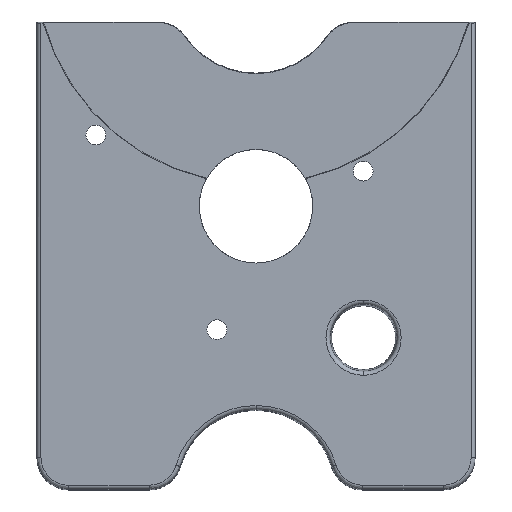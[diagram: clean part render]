
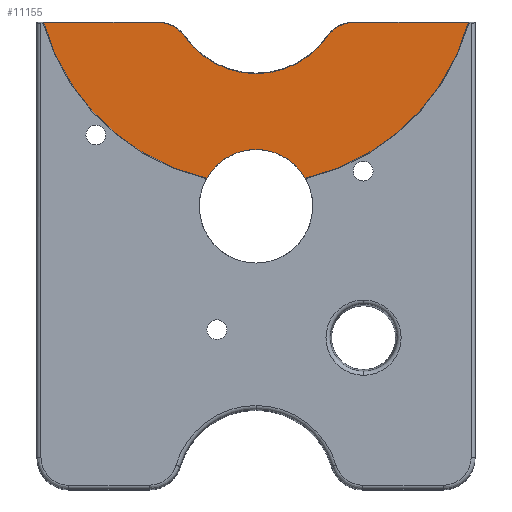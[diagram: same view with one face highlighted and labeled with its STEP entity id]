
A CAD part, front view. The second image highlights one B-rep face of the part: STEP entity #11155.
In plain terms, the highlighted planar face has unit normal (0, -1, 0).
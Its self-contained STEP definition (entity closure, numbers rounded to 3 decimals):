
#25 = CARTESIAN_POINT ( 'NONE',  ( -19.48, 5., 44.34 ) ) ;
#121 = CARTESIAN_POINT ( 'NONE',  ( -22.311, 5., 45.822 ) ) ;
#207 = CARTESIAN_POINT ( 'NONE',  ( -22., 5., 45.726 ) ) ;
#421 = CIRCLE ( 'NONE', #8009, 55.369 ) ;
#497 = CARTESIAN_POINT ( 'NONE',  ( 18.334, 5., 43.227 ) ) ;
#595 = CARTESIAN_POINT ( 'NONE',  ( 24.534, 5., 46.131 ) ) ;
#608 = CARTESIAN_POINT ( 'NONE',  ( -21.4, 5., 45.498 ) ) ;
#672 = CIRCLE ( 'NONE', #3583, 14.25 ) ;
#696 = ORIENTED_EDGE ( 'NONE', *, *, #10596, .F. ) ;
#800 = CARTESIAN_POINT ( 'NONE',  ( -53.335, 5., 46.131 ) ) ;
#877 = CARTESIAN_POINT ( 'NONE',  ( -21.108, 5., 45.367 ) ) ;
#933 = CIRCLE ( 'NONE', #9932, 21.869 ) ;
#943 = CARTESIAN_POINT ( 'NONE',  ( -20.542, 5., 45.071 ) ) ;
#992 = CARTESIAN_POINT ( 'NONE',  ( -20.268, 5., 44.905 ) ) ;
#1044 = CARTESIAN_POINT ( 'NONE',  ( -19.736, 5., 44.539 ) ) ;
#1072 = CARTESIAN_POINT ( 'NONE',  ( -18.76, 5., 43.704 ) ) ;
#1185 = LINE ( 'NONE', #12943, #5686 ) ;
#1255 = CARTESIAN_POINT ( 'NONE',  ( -17.965, 5., 42.694 ) ) ;
#1347 = B_SPLINE_CURVE_WITH_KNOTS ( 'NONE', 3,
 ( #3005, #3118, #1072, #25, #1044, #992, #943, #877, #608, #207, #121, #13158, #13077, #12798 ),
 .UNSPECIFIED., .F., .F.,
 ( 4, 2, 2, 2, 2, 2, 4 ),
 ( 0., 0.002, 0.003, 0.004, 0.005, 0.006, 0.008 ),
 .UNSPECIFIED. ) ;
#1671 = VERTEX_POINT ( 'NONE', #1255 ) ;
#1709 = DIRECTION ( 'NONE',  ( 0., 1., 0. ) ) ;
#2076 = CARTESIAN_POINT ( 'NONE',  ( 0., 5., 0. ) ) ;
#2336 = VERTEX_POINT ( 'NONE', #5917 ) ;
#2337 = EDGE_CURVE ( 'NONE', #1671, #11984, #933, .T. ) ;
#2465 = CIRCLE ( 'NONE', #8702, 14.25 ) ;
#2577 = CARTESIAN_POINT ( 'NONE',  ( 22.318, 5., 45.824 ) ) ;
#2954 = DIRECTION ( 'NONE',  ( 0., 0., 1. ) ) ;
#2957 = DIRECTION ( 'NONE',  ( 0., 1., 0. ) ) ;
#2966 = CARTESIAN_POINT ( 'NONE',  ( 0., 5., 61. ) ) ;
#2979 = CARTESIAN_POINT ( 'NONE',  ( 0., 5., 61. ) ) ;
#3005 = CARTESIAN_POINT ( 'NONE',  ( -17.965, 5., 42.694 ) ) ;
#3109 = DIRECTION ( 'NONE',  ( 0., 0., 1. ) ) ;
#3118 = CARTESIAN_POINT ( 'NONE',  ( -18.334, 5., 43.227 ) ) ;
#3404 = VERTEX_POINT ( 'NONE', #11495 ) ;
#3415 = VERTEX_POINT ( 'NONE', #8777 ) ;
#3561 = LINE ( 'NONE', #6323, #12658 ) ;
#3583 = AXIS2_PLACEMENT_3D ( 'NONE', #2076, #9315, #3109 ) ;
#3621 = CARTESIAN_POINT ( 'NONE',  ( 21.405, 5., 45.5 ) ) ;
#3627 = ORIENTED_EDGE ( 'NONE', *, *, #10418, .F. ) ;
#4053 = DIRECTION ( 'NONE',  ( 0., -1., 0. ) ) ;
#4203 = EDGE_CURVE ( 'NONE', #4799, #10077, #3561, .T. ) ;
#4378 = EDGE_CURVE ( 'NONE', #1671, #10077, #1347, .T. ) ;
#4696 = CARTESIAN_POINT ( 'NONE',  ( 20.546, 5., 45.073 ) ) ;
#4799 = VERTEX_POINT ( 'NONE', #800 ) ;
#5063 = EDGE_CURVE ( 'NONE', #6875, #8507, #1185, .T. ) ;
#5127 = PLANE ( 'NONE',  #7260 ) ;
#5332 = CIRCLE ( 'NONE', #5886, 55.369 ) ;
#5686 = VECTOR ( 'NONE', #12983, 1000. ) ;
#5723 = CARTESIAN_POINT ( 'NONE',  ( 19.743, 5., 44.545 ) ) ;
#5838 = ORIENTED_EDGE ( 'NONE', *, *, #8991, .T. ) ;
#5886 = AXIS2_PLACEMENT_3D ( 'NONE', #2966, #2957, #2954 ) ;
#5917 = CARTESIAN_POINT ( 'NONE',  ( 0., 5., 14.25 ) ) ;
#6074 = DIRECTION ( 'NONE',  ( 1., 0., 0. ) ) ;
#6148 = DIRECTION ( 'NONE',  ( 0., 1., 0. ) ) ;
#6323 = CARTESIAN_POINT ( 'NONE',  ( -55.5, 5., 46.131 ) ) ;
#6365 = EDGE_CURVE ( 'NONE', #8507, #3415, #5332, .T. ) ;
#6804 = CARTESIAN_POINT ( 'NONE',  ( 18.761, 5., 43.705 ) ) ;
#6875 = VERTEX_POINT ( 'NONE', #595 ) ;
#7257 = CARTESIAN_POINT ( 'NONE',  ( 17.965, 5., 42.694 ) ) ;
#7260 = AXIS2_PLACEMENT_3D ( 'NONE', #2979, #6148, #13205 ) ;
#7769 = CARTESIAN_POINT ( 'NONE',  ( 23.886, 5., 46.131 ) ) ;
#7809 = CARTESIAN_POINT ( 'NONE',  ( 17.965, 5., 42.694 ) ) ;
#7936 = CARTESIAN_POINT ( 'NONE',  ( 0., 5., 61. ) ) ;
#8009 = AXIS2_PLACEMENT_3D ( 'NONE', #7936, #1709, #8952 ) ;
#8507 = VERTEX_POINT ( 'NONE', #13304 ) ;
#8702 = AXIS2_PLACEMENT_3D ( 'NONE', #10219, #4053, #11206 ) ;
#8777 = CARTESIAN_POINT ( 'NONE',  ( 12.392, 5., 7.035 ) ) ;
#8779 = CARTESIAN_POINT ( 'NONE',  ( 23.251, 5., 46.053 ) ) ;
#8952 = DIRECTION ( 'NONE',  ( 0., 0., 1. ) ) ;
#8991 = EDGE_CURVE ( 'NONE', #6875, #11984, #12220, .T. ) ;
#9148 = CARTESIAN_POINT ( 'NONE',  ( -24.534, 5., 46.131 ) ) ;
#9315 = DIRECTION ( 'NONE',  ( 0., -1., 0. ) ) ;
#9477 = FACE_OUTER_BOUND ( 'NONE', #11511, .T. ) ;
#9626 = ORIENTED_EDGE ( 'NONE', *, *, #6365, .F. ) ;
#9774 = CARTESIAN_POINT ( 'NONE',  ( 24.534, 5., 46.131 ) ) ;
#9814 = CARTESIAN_POINT ( 'NONE',  ( 22.008, 5., 45.729 ) ) ;
#9932 = AXIS2_PLACEMENT_3D ( 'NONE', #12663, #10333, #10702 ) ;
#10077 = VERTEX_POINT ( 'NONE', #9148 ) ;
#10094 = ORIENTED_EDGE ( 'NONE', *, *, #4203, .F. ) ;
#10219 = CARTESIAN_POINT ( 'NONE',  ( 0., 5., 0. ) ) ;
#10333 = DIRECTION ( 'NONE',  ( 0., -1., 0. ) ) ;
#10418 = EDGE_CURVE ( 'NONE', #3404, #4799, #421, .T. ) ;
#10435 = ORIENTED_EDGE ( 'NONE', *, *, #5063, .F. ) ;
#10466 = ORIENTED_EDGE ( 'NONE', *, *, #10511, .F. ) ;
#10511 = EDGE_CURVE ( 'NONE', #2336, #3404, #2465, .T. ) ;
#10596 = EDGE_CURVE ( 'NONE', #3415, #2336, #672, .T. ) ;
#10702 = DIRECTION ( 'NONE',  ( 0., 0., 1. ) ) ;
#10834 = CARTESIAN_POINT ( 'NONE',  ( 21.112, 5., 45.369 ) ) ;
#11155 = ADVANCED_FACE ( 'NONE', ( #9477 ), #5127, .F. ) ;
#11206 = DIRECTION ( 'NONE',  ( 0., 0., 1. ) ) ;
#11275 = ORIENTED_EDGE ( 'NONE', *, *, #4378, .T. ) ;
#11495 = CARTESIAN_POINT ( 'NONE',  ( -12.392, 5., 7.035 ) ) ;
#11511 = EDGE_LOOP ( 'NONE', ( #696, #9626, #10435, #5838, #12179, #11275, #10094, #3627, #10466 ) ) ;
#11790 = CARTESIAN_POINT ( 'NONE',  ( 20.272, 5., 44.908 ) ) ;
#11984 = VERTEX_POINT ( 'NONE', #7257 ) ;
#12179 = ORIENTED_EDGE ( 'NONE', *, *, #2337, .F. ) ;
#12220 = B_SPLINE_CURVE_WITH_KNOTS ( 'NONE', 3,
 ( #9774, #7769, #8779, #2577, #9814, #3621, #10834, #4696, #11790, #5723, #12813, #6804, #497, #7809 ),
 .UNSPECIFIED., .F., .F.,
 ( 4, 2, 2, 2, 2, 2, 4 ),
 ( 0., 0.002, 0.003, 0.004, 0.005, 0.006, 0.008 ),
 .UNSPECIFIED. ) ;
#12658 = VECTOR ( 'NONE', #6074, 1000. ) ;
#12663 = CARTESIAN_POINT ( 'NONE',  ( 0., 5., 55.165 ) ) ;
#12798 = CARTESIAN_POINT ( 'NONE',  ( -24.534, 5., 46.131 ) ) ;
#12813 = CARTESIAN_POINT ( 'NONE',  ( 19.486, 5., 44.345 ) ) ;
#12943 = CARTESIAN_POINT ( 'NONE',  ( 20., 5., 46.131 ) ) ;
#12983 = DIRECTION ( 'NONE',  ( 1., 0., 0. ) ) ;
#13077 = CARTESIAN_POINT ( 'NONE',  ( -23.886, 5., 46.131 ) ) ;
#13158 = CARTESIAN_POINT ( 'NONE',  ( -23.249, 5., 46.053 ) ) ;
#13205 = DIRECTION ( 'NONE',  ( 0., 0., 1. ) ) ;
#13304 = CARTESIAN_POINT ( 'NONE',  ( 53.335, 5., 46.131 ) ) ;
